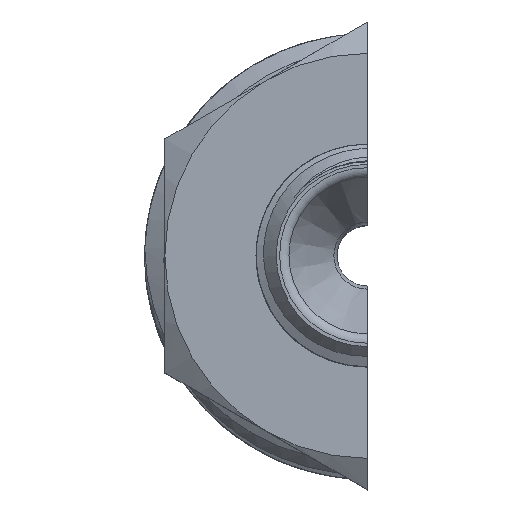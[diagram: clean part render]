
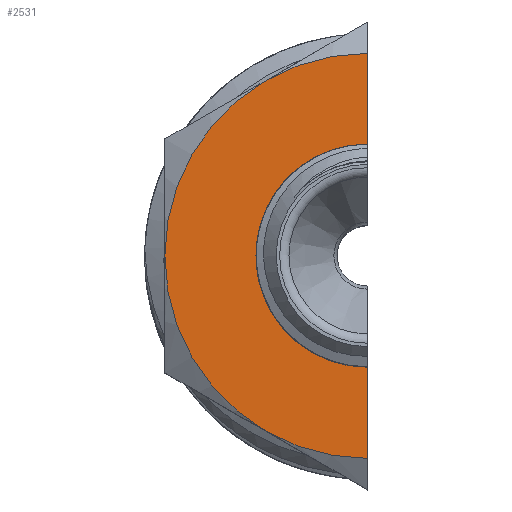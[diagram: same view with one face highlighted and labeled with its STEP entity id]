
A CAD part, top view. The second image highlights one B-rep face of the part: STEP entity #2531.
In plain terms, the highlighted planar face has unit normal (0, 0, 1).
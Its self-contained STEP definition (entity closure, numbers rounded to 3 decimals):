
#112=PLANE('',#2645);
#286=CIRCLE('',#2642,10.);
#287=CIRCLE('',#2644,10.);
#288=CIRCLE('',#2646,10.);
#289=CIRCLE('',#2647,10.);
#290=CIRCLE('',#2648,5.5);
#339=ORIENTED_EDGE('',*,*,#913,.F.);
#340=ORIENTED_EDGE('',*,*,#910,.F.);
#341=ORIENTED_EDGE('',*,*,#914,.F.);
#342=ORIENTED_EDGE('',*,*,#915,.F.);
#343=ORIENTED_EDGE('',*,*,#909,.F.);
#344=ORIENTED_EDGE('',*,*,#916,.F.);
#345=ORIENTED_EDGE('',*,*,#917,.T.);
#909=EDGE_CURVE('',#1196,#1195,#286,.T.);
#910=EDGE_CURVE('',#1197,#1198,#287,.T.);
#913=EDGE_CURVE('',#1198,#1200,#1380,.T.);
#914=EDGE_CURVE('',#1201,#1197,#288,.T.);
#915=EDGE_CURVE('',#1195,#1201,#289,.T.);
#916=EDGE_CURVE('',#1202,#1196,#1381,.T.);
#917=EDGE_CURVE('',#1202,#1200,#290,.T.);
#1195=VERTEX_POINT('',#3136);
#1196=VERTEX_POINT('',#3138);
#1197=VERTEX_POINT('',#3142);
#1198=VERTEX_POINT('',#3143);
#1200=VERTEX_POINT('',#3152);
#1201=VERTEX_POINT('',#3154);
#1202=VERTEX_POINT('',#3157);
#1380=LINE('',#3151,#1482);
#1381=LINE('',#3156,#1483);
#1482=VECTOR('',#2798,1000.);
#1483=VECTOR('',#2803,1000.);
#1581=EDGE_LOOP('',(#339,#340,#341,#342,#343,#344,#345));
#1687=FACE_BOUND('',#1581,.T.);
#2531=ADVANCED_FACE('',(#1687),#112,.F.);
#2642=AXIS2_PLACEMENT_3D('',#3139,#2789,#2790);
#2644=AXIS2_PLACEMENT_3D('',#3141,#2793,#2794);
#2645=AXIS2_PLACEMENT_3D('',#3150,#2796,#2797);
#2646=AXIS2_PLACEMENT_3D('',#3153,#2799,#2800);
#2647=AXIS2_PLACEMENT_3D('',#3155,#2801,#2802);
#2648=AXIS2_PLACEMENT_3D('',#3158,#2804,#2805);
#2789=DIRECTION('',(0.,0.,-1.));
#2790=DIRECTION('',(-1.,0.,0.));
#2793=DIRECTION('',(0.,0.,-1.));
#2794=DIRECTION('',(-1.,0.,0.));
#2796=DIRECTION('',(0.,0.,-1.));
#2797=DIRECTION('',(-1.,0.,0.));
#2798=DIRECTION('',(0.,-1.,0.));
#2799=DIRECTION('',(0.,0.,-1.));
#2800=DIRECTION('',(-1.,0.,0.));
#2801=DIRECTION('',(0.,0.,-1.));
#2802=DIRECTION('',(-1.,0.,0.));
#2803=DIRECTION('',(0.,-1.,0.));
#2804=DIRECTION('',(0.,0.,-1.));
#2805=DIRECTION('',(-1.,0.,0.));
#3136=CARTESIAN_POINT('',(-5.,-8.66,8.));
#3138=CARTESIAN_POINT('',(0.,-10.,8.));
#3139=CARTESIAN_POINT('',(0.,0.,8.));
#3141=CARTESIAN_POINT('',(0.,0.,8.));
#3142=CARTESIAN_POINT('',(-5.,8.66,8.));
#3143=CARTESIAN_POINT('',(0.,10.,8.));
#3150=CARTESIAN_POINT('',(0.,0.,8.));
#3151=CARTESIAN_POINT('',(0.,0.,8.));
#3152=CARTESIAN_POINT('',(0.,5.5,8.));
#3153=CARTESIAN_POINT('',(0.,0.,8.));
#3154=CARTESIAN_POINT('',(-10.,0.,8.));
#3155=CARTESIAN_POINT('',(0.,0.,8.));
#3156=CARTESIAN_POINT('',(0.,0.,8.));
#3157=CARTESIAN_POINT('',(0.,-5.5,8.));
#3158=CARTESIAN_POINT('',(0.,0.,8.));
